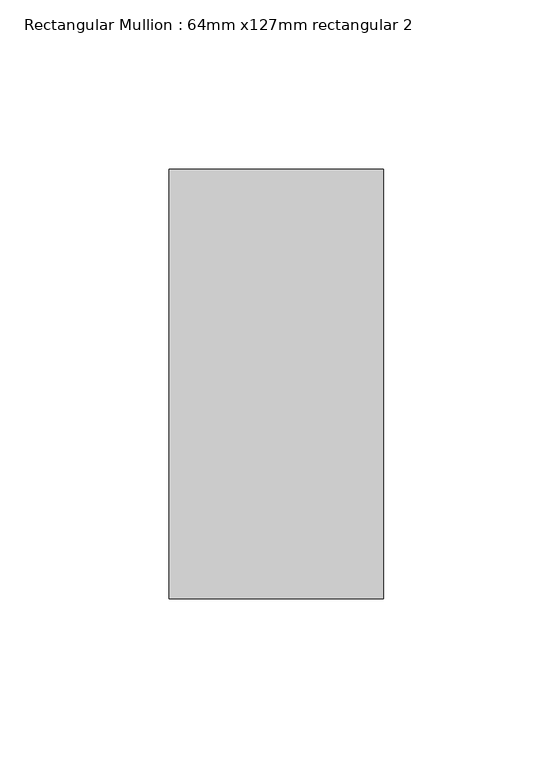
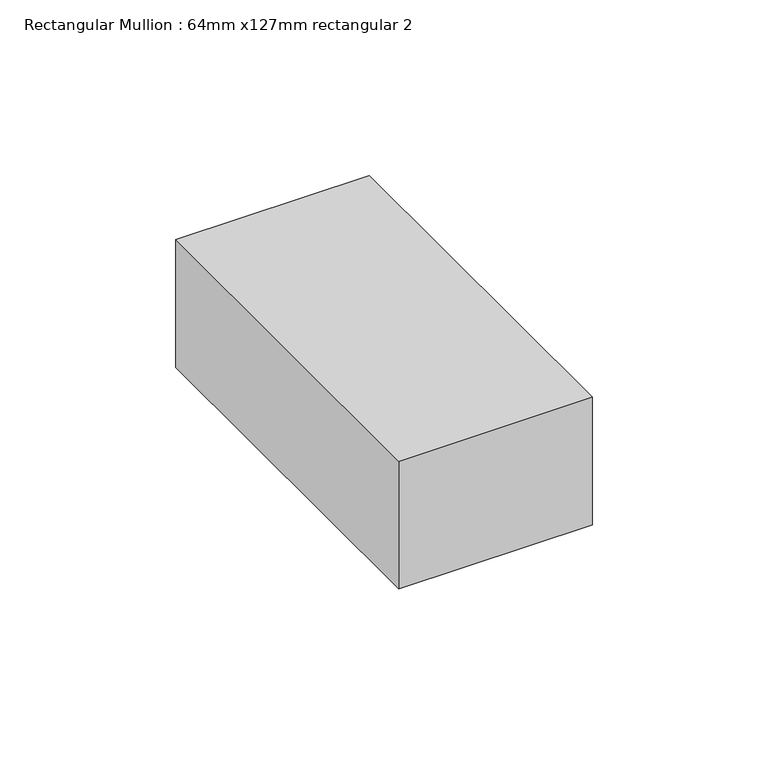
"""IFC4 building model written with IfcOpenShell, lengths in millimetres: member geometry, Rectangular Mullion : 64mm x127mm rectangular 2."""

from ifc_helpers import new_model, si_unit, frame, origin, place, context, project, spatial, polyline, outline, extrude, source, transform, mapped, element, save


def rectangular_mullion_64mm_x127mm_rectangular_2_4b922f24(model_context):
    return source(origin(), model_context, "Body", "SweptSolid", [
        extrude(outline(polyline([(31.75, 63.5), (31.75, -63.5), (-31.75, -63.5), (-31.75, 63.5), (31.75, 63.5)])), frame((0.0, 0.0, -44.45), z_axis=(0.0, 0.0, 1.0), x_axis=(1.0, 0.0, 0.0)), (0.0, 0.0, 1.0), 44.45),
    ])


if __name__ == "__main__":
    model = new_model("IFC4")
    model_context = context("Model", 3, world=origin())
    ifc_project = project(units=[si_unit("LENGTHUNIT", "METRE", prefix="MILLI")], contexts=[model_context])
    site = spatial("IfcSite", under=ifc_project)
    building = spatial("IfcBuilding", under=site)
    placement = place(None, origin())
    rectangular_mullion_64mm_x127mm_rectangular_2_shape = rectangular_mullion_64mm_x127mm_rectangular_2_4b922f24(model_context)
    element("IfcMember", 1, ObjectType="Rectangular Mullion : 64mm x127mm rectangular 2", at=placement, inside=building, context=model_context, shape_type="MappedRepresentation", body=[
        mapped(rectangular_mullion_64mm_x127mm_rectangular_2_shape, transform((0.0, 0.0, 0.0), x_axis=(1.0, 0.0, 0.0), y_axis=(0.0, 1.0, 0.0), z_axis=(0.0, 0.0, 1.0))),
    ])
    save(model, "model.ifc")
